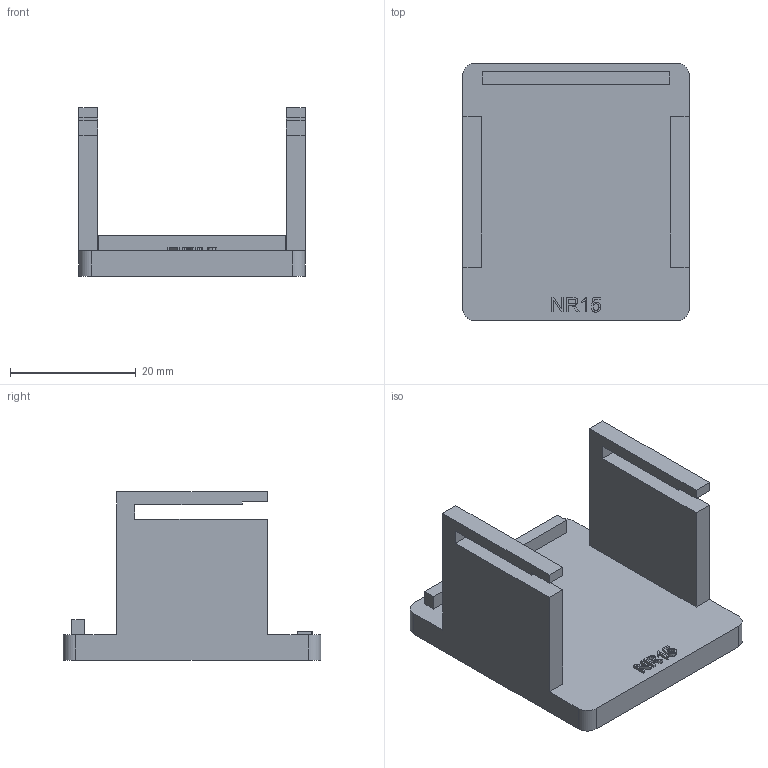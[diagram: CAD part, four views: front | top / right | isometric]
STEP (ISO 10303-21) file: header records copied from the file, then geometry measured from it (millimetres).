
FILE_DESCRIPTION(('Open CASCADE Model'),'2;1');
FILE_NAME('Open CASCADE Shape Model','1970-01-01T00:00:00',('Author'),( 'Open CASCADE'),'Open CASCADE STEP processor 7.8','Open CASCADE 7.8' ,'Unknown');
FILE_SCHEMA(('AUTOMOTIVE_DESIGN { 1 0 10303 214 1 1 1 1 }'));
Length unit declared in the file: millimetre
Products named in the file (2): Open CASCADE STEP translator 7.8 25; NR15D neck storage shoe
Assembly tree (1 placements, depth 2):
  Open CASCADE STEP translator 7.8 25
    NR15D neck storage shoe
Bounding box: 36 x 41 x 26.73 mm (x, y, z)
Volume: 8998.5 mm3; surface area: 6222.7 mm2
Topology: 1 solids, 1 shells, 108 faces, 300 edges, 200 vertices
Faces by surface type: plane 69, extrusion 35, cylinder 4
Entity records: 7808 total; most frequent: CARTESIAN_POINT 2301, DIRECTION 788, VECTOR 616, ORIENTED_EDGE 600, PCURVE 600, DEFINITIONAL_REPRESENTATION 600, LINE 581, B_SPLINE_CURVE_WITH_KNOTS 338
